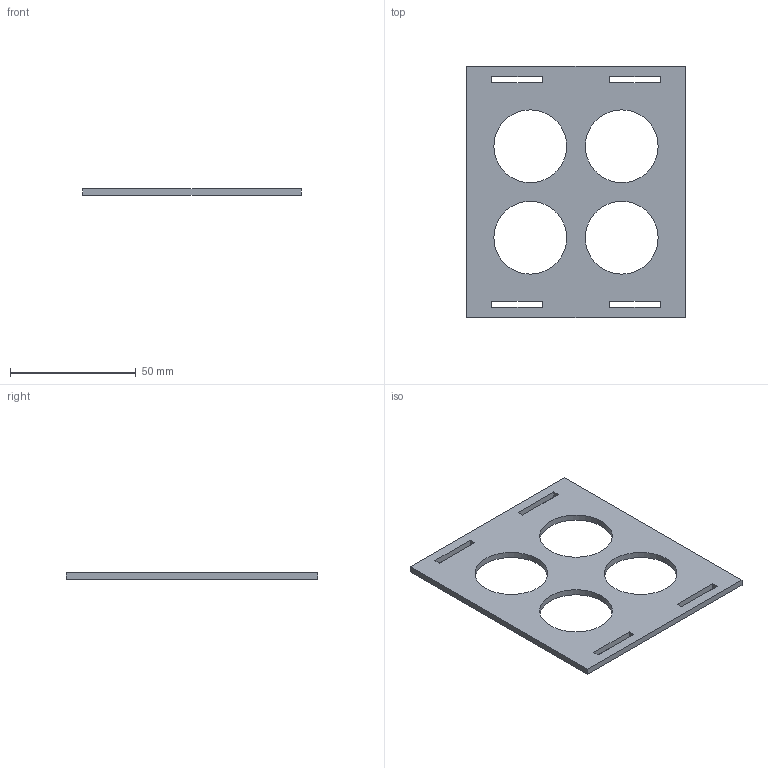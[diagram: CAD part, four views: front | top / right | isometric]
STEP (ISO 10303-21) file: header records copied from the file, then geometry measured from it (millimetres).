
FILE_DESCRIPTION(/* description */ (''),/* implementation_level */ '2;1');
FILE_NAME(/* name */ 'C:\Users\valen\Desktop\Estandar CubeSat - Programa AVES-20220531T050024Z-001\Estandar CubeSat - Programa AVES\3D - MODELS\STEP\5.Superior.stp',/* time_stamp */ '2022-05-31T02:24:25-05:00',/* author */ ('valen'),/* organization */ (''),/* preprocessor_version */ 'ST-DEVELOPER v18.1',/* originating_system */ 'Autodesk Inventor 2022',/* authorisation */ '');
FILE_SCHEMA (('AUTOMOTIVE_DESIGN { 1 0 10303 214 3 1 1 }'));
Length unit declared in the file: millimetre
Products named in the file (1): Lateral 1
Bounding box: 87 x 100 x 2.5 mm (x, y, z)
Volume: 14644.8 mm3; surface area: 14011.9 mm2
Topology: 1 solids, 1 shells, 26 faces, 72 edges, 48 vertices
Faces by surface type: plane 22, cylinder 4
Full cylindrical faces by diameter (mm): 29 x4
Entity records: 897 total; most frequent: CARTESIAN_POINT 147, ORIENTED_EDGE 144, DIRECTION 134, EDGE_CURVE 72, LINE 64, VECTOR 64, VERTEX_POINT 48, EDGE_LOOP 42
